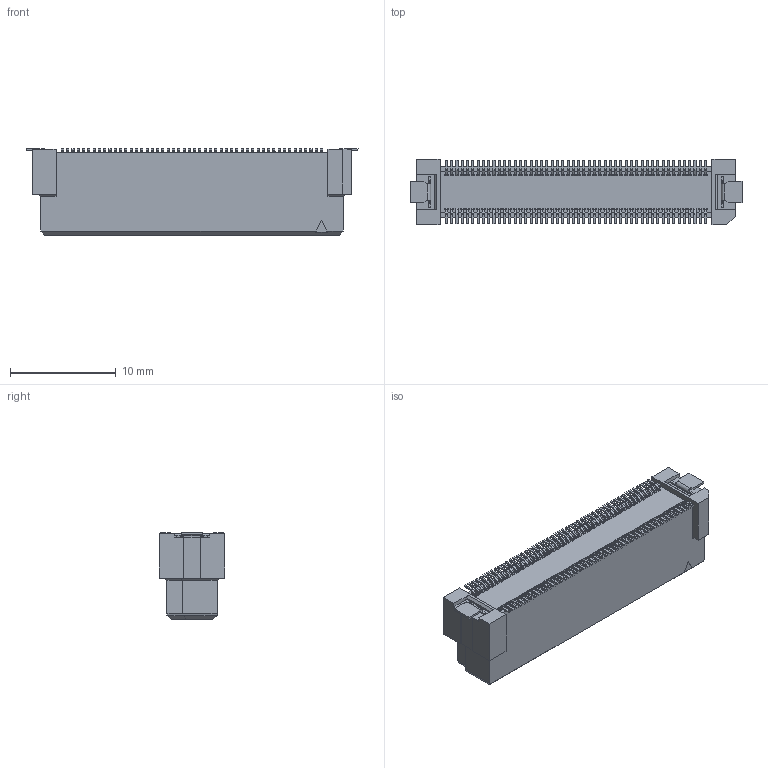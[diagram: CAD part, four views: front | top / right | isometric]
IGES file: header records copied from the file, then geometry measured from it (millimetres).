
Start section: Elysium IGES Interface
Global section: file name: 73HC:\Users\1502\Desktop\DT_webリニューアル\プラグ\ボス無\DT10-100S-10-T.igs; native system: Creo Elements/Direct Modeling 19.0F  14-Feb-2017; preprocessor: Creo Element/Direct IGES_3D V2.2; author: Unknown; organization: Unknown; date: 20170811.101053; units: millimetre
Bounding box: 31.4 x 6.2 x 8.18 mm (x, y, z)
Volume: 964.9 mm3; surface area: 1673.5 mm2
Topology: 1 solids, 1 shells, 3531 faces, 9558 edges, 6232 vertices
Faces by surface type: bspline 3531
